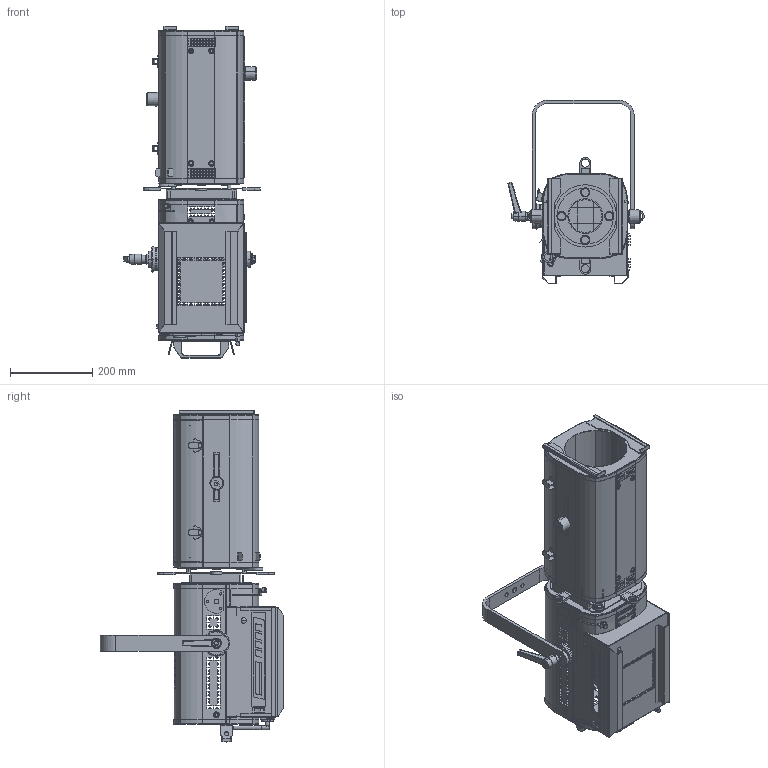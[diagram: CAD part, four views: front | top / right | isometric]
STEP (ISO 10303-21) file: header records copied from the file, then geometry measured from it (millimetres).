
FILE_DESCRIPTION (( 'STEP AP203' ), '1' );
FILE_NAME ('663 - CAD Client.STEP', '2015-09-23T12:59:02', ( '' ), ( '' ), 'SwSTEP 2.0', 'SolidWorks 2015', '' );
FILE_SCHEMA (( 'CONFIG_CONTROL_DESIGN' ));
Length unit declared in the file: millimetre
Products named in the file (5): 663 - CAD Client; Zoom 6x4; Lanterne ZEP; Fenetre image; Trappe ZEP II
Assembly tree (4 placements, depth 2):
  663 - CAD Client
    Lanterne ZEP
    Trappe ZEP II
    Fenetre image
    Zoom 6x4
Bounding box: 332.23 x 447.2 x 809.4 mm (x, y, z)
Surface area: 2062095.9 mm2 (no closed solid volume)
Topology: 0 solids, 94 shells, 2910 faces, 8931 edges, 5965 vertices
Faces by surface type: plane 2057, cylinder 560, torus 146, cone 94, bspline 44, sphere 9
Entity records: 101306 total; most frequent: CARTESIAN_POINT 20062, DIRECTION 16502, ORIENTED_EDGE 15743, EDGE_CURVE 8925, VECTOR 6680, LINE 6680, VERTEX_POINT 5963, AXIS2_PLACEMENT_3D 4911
